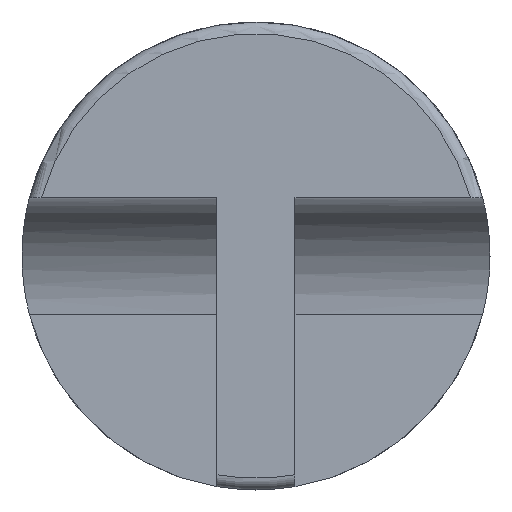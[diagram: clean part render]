
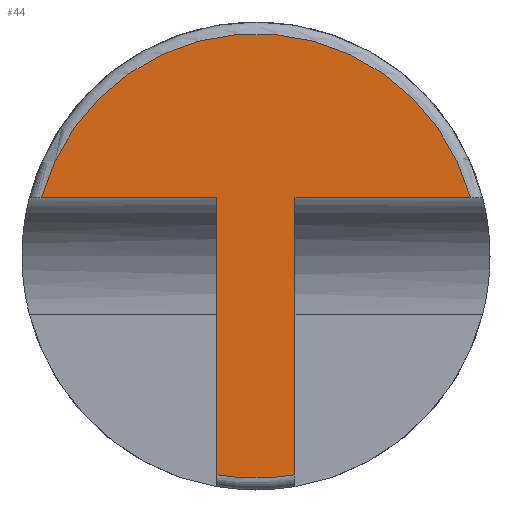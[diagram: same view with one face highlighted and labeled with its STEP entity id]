
A CAD part, left-side view. The second image highlights one B-rep face of the part: STEP entity #44.
In plain terms, the highlighted planar face has unit normal (-1, 0, 0).
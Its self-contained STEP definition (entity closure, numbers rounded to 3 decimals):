
#44 = ADVANCED_FACE( '', ( #93 ), #94, .F. );
#93 = FACE_OUTER_BOUND( '', #147, .T. );
#94 = PLANE( '', #148 );
#147 = EDGE_LOOP( '', ( #214, #215, #216, #217, #218, #219 ) );
#148 = AXIS2_PLACEMENT_3D( '', #220, #221, #222 );
#214 = ORIENTED_EDGE( '', *, *, #324, .F. );
#215 = ORIENTED_EDGE( '', *, *, #329, .F. );
#216 = ORIENTED_EDGE( '', *, *, #319, .T. );
#217 = ORIENTED_EDGE( '', *, *, #314, .T. );
#218 = ORIENTED_EDGE( '', *, *, #330, .T. );
#219 = ORIENTED_EDGE( '', *, *, #331, .T. );
#220 = CARTESIAN_POINT( '', ( -90., 0., 6. ) );
#221 = DIRECTION( '', ( 1., 0., 0. ) );
#222 = DIRECTION( '', ( 0., 0., -1. ) );
#314 = EDGE_CURVE( '', #368, #366, #369, .T. );
#319 = EDGE_CURVE( '', #373, #368, #376, .F. );
#324 = EDGE_CURVE( '', #383, #385, #386, .T. );
#329 = EDGE_CURVE( '', #373, #383, #393, .T. );
#330 = EDGE_CURVE( '', #366, #394, #395, .T. );
#331 = EDGE_CURVE( '', #394, #385, #396, .F. );
#366 = VERTEX_POINT( '', #444 );
#368 = VERTEX_POINT( '', #447 );
#369 = LINE( '', #448, #449 );
#373 = VERTEX_POINT( '', #458 );
#376 = CIRCLE( '', #466, 5.7 );
#383 = VERTEX_POINT( '', #474 );
#385 = VERTEX_POINT( '', #477 );
#386 = LINE( '', #478, #479 );
#393 = LINE( '', #492, #493 );
#394 = VERTEX_POINT( '', #494 );
#395 = LINE( '', #495, #496 );
#396 = CIRCLE( '', #497, 5.7 );
#444 = CARTESIAN_POINT( '', ( -90., 1., 1.5 ) );
#447 = CARTESIAN_POINT( '', ( -90., 5.499, 1.5 ) );
#448 = CARTESIAN_POINT( '', ( -90., 5.809, 1.5 ) );
#449 = VECTOR( '', #581, 1000. );
#458 = CARTESIAN_POINT( '', ( -90., -5.499, 1.5 ) );
#466 = AXIS2_PLACEMENT_3D( '', #585, #586, #587 );
#474 = CARTESIAN_POINT( '', ( -90., -1., 1.5 ) );
#477 = CARTESIAN_POINT( '', ( -90., -1., -5.612 ) );
#478 = CARTESIAN_POINT( '', ( -90., -1., 1.5 ) );
#479 = VECTOR( '', #593, 1000. );
#492 = CARTESIAN_POINT( '', ( -90., -5.809, 1.5 ) );
#493 = VECTOR( '', #598, 1000. );
#494 = CARTESIAN_POINT( '', ( -90., 1., -5.612 ) );
#495 = CARTESIAN_POINT( '', ( -90., 1., 1.5 ) );
#496 = VECTOR( '', #599, 1000. );
#497 = AXIS2_PLACEMENT_3D( '', #600, #601, #602 );
#581 = DIRECTION( '', ( 0., -1., 0. ) );
#585 = CARTESIAN_POINT( '', ( -90., 0., 0. ) );
#586 = DIRECTION( '', ( 1., 0., 0. ) );
#587 = DIRECTION( '', ( 0., 0., -1. ) );
#593 = DIRECTION( '', ( 0., 0., -1. ) );
#598 = DIRECTION( '', ( 0., 1., 0. ) );
#599 = DIRECTION( '', ( 0., 0., -1. ) );
#600 = CARTESIAN_POINT( '', ( -90., 0., 0. ) );
#601 = DIRECTION( '', ( 1., 0., 0. ) );
#602 = DIRECTION( '', ( 0., 0., -1. ) );
